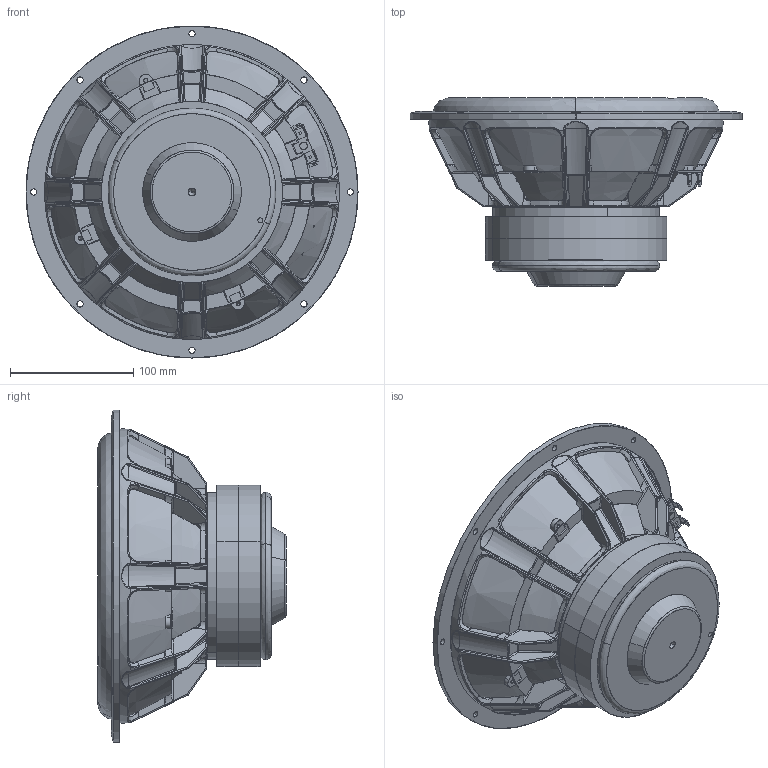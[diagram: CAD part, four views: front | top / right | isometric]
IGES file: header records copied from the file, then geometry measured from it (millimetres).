
Start section: SolidWorks IGES file using analytic representation for surfaces
Global section: file name: W:\TT\WEB 3D enheder\WEB 26W_4558T00\26W-4558T00.IGS; native system: SolidWorks 2019; preprocessor: SolidWorks 2019; author: mhn; date: 201022.103803; units: millimetre
Bounding box: 269.2 x 152.6 x 269.2 mm (x, y, z)
Surface area: 274574.8 mm2 (no closed solid volume)
Topology: 0 solids, 0 shells, 1368 faces, 14677 edges, 14639 vertices
Faces by surface type: bspline 827, revolution 541
